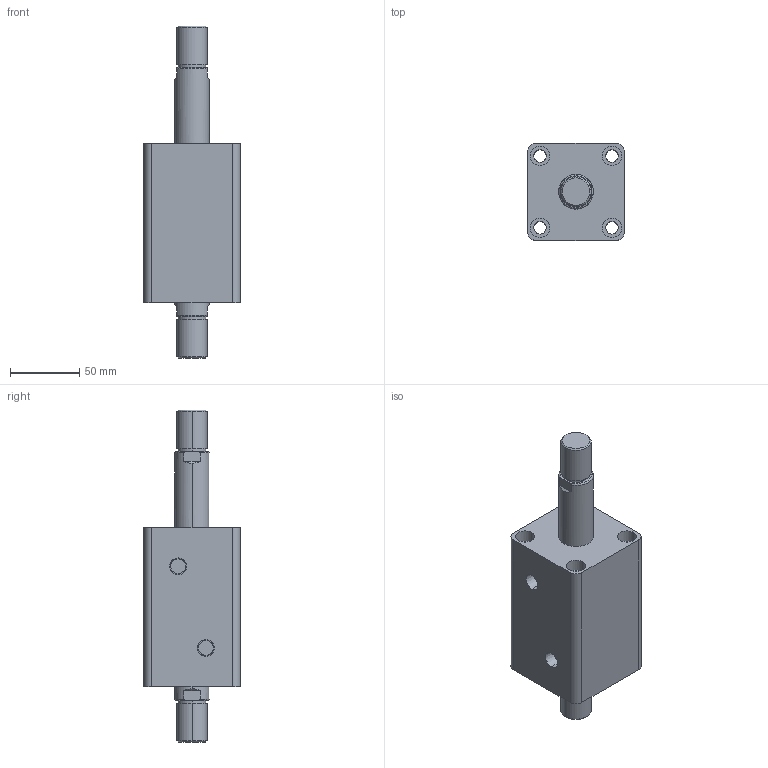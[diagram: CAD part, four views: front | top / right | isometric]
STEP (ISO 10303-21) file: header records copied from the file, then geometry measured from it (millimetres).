
FILE_DESCRIPTION (( 'STEP AP203' ), '1' );
FILE_NAME ('HTB-SW40-45W.STEP', '2019-10-07T09:08:23', ( '微软用户' ), ( '微软中国' ), 'SwSTEP 2.0', 'SolidWorks 2012', '' );
FILE_SCHEMA (( 'CONFIG_CONTROL_DESIGN' ));
Length unit declared in the file: millimetre
Products named in the file (3): HTB-SW40-45W; HTB-SW40-45W活塞杆; HTB-SW40-45掛极
Assembly tree (2 placements, depth 2):
  HTB-SW40-45W
    HTB-SW40-45掛极
    HTB-SW40-45W活塞杆
Bounding box: 70 x 70 x 240 mm (x, y, z)
Volume: 541675.9 mm3; surface area: 89110.6 mm2
Topology: 2 solids, 2 shells, 108 faces, 240 edges, 156 vertices
Faces by surface type: cylinder 52, plane 36, torus 12, cone 8
Entity records: 3449 total; most frequent: CARTESIAN_POINT 629, DIRECTION 586, ORIENTED_EDGE 480, AXIS2_PLACEMENT_3D 249, EDGE_CURVE 240, VERTEX_POINT 156, EDGE_LOOP 138, CIRCLE 136
